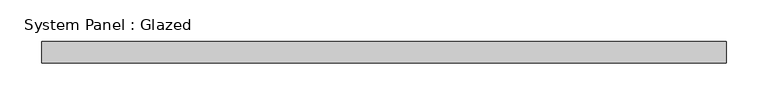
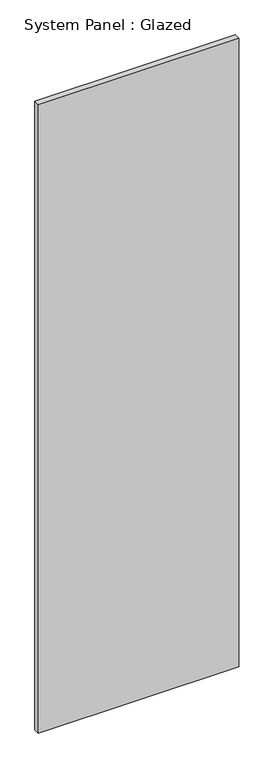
"""IFC4 building model written with IfcOpenShell, lengths in millimetres: plate geometry, System Panel : Glazed."""

from ifc_helpers import new_model, si_unit, origin, origin_with_axes, place, context, project, spatial, polyline, outline, extrude, source, transform, mapped, element, save


def system_panel_glazed_61942ae4(model_context):
    return source(origin(), model_context, "Body", "SweptSolid", [
        extrude(outline(polyline([(409.575, 19.05), (-409.575, 19.05), (-409.575, 44.45), (409.575, 44.45), (409.575, 19.05)])), origin_with_axes(), (0.0, 0.0, 1.0), 2717.8),
    ])


if __name__ == "__main__":
    model = new_model("IFC4")
    model_context = context("Model", 3, world=origin())
    ifc_project = project(units=[si_unit("LENGTHUNIT", "METRE", prefix="MILLI")], contexts=[model_context])
    site = spatial("IfcSite", under=ifc_project)
    building = spatial("IfcBuilding", under=site)
    placement = place(None, origin())
    system_panel_glazed_shape = system_panel_glazed_61942ae4(model_context)
    element("IfcPlate", 1, ObjectType="System Panel : Glazed", at=placement, inside=building, context=model_context, shape_type="MappedRepresentation", body=[
        mapped(system_panel_glazed_shape, transform((0.0, 0.0, 0.0), x_axis=(1.0, 0.0, 0.0), y_axis=(0.0, 1.0, 0.0), z_axis=(0.0, 0.0, 1.0))),
    ])
    save(model, "model.ifc")
